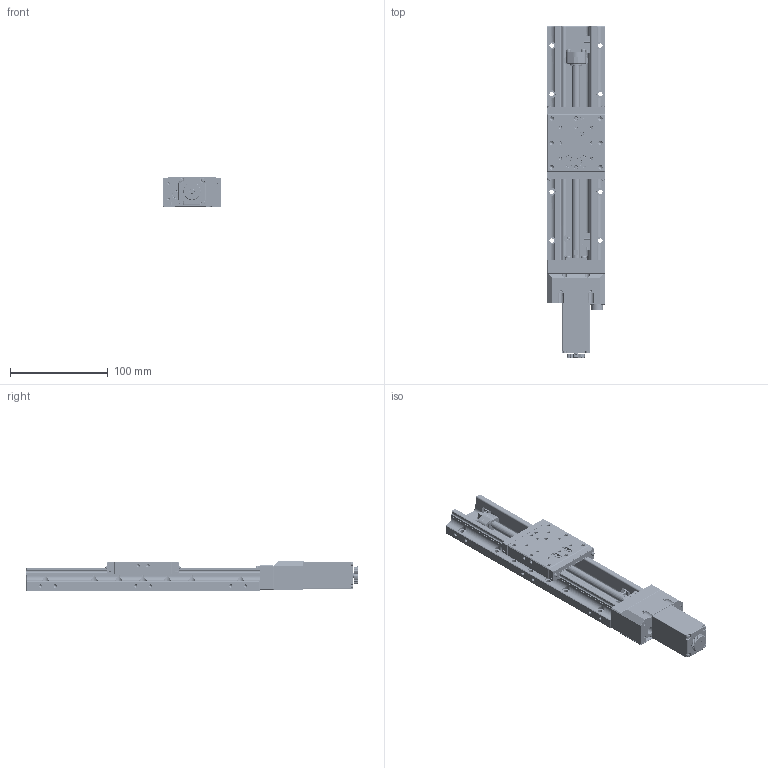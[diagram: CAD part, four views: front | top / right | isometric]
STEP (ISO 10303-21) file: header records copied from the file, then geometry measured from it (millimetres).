
FILE_DESCRIPTION (( 'STEP AP214' ), '1' );
FILE_NAME ('TXG60150B-L2-M28.STEP', '2025-01-03T08:50:26', ( '' ), ( '' ), 'SwSTEP 2.0', 'SolidWorks 2020', '' );
FILE_SCHEMA (( 'AUTOMOTIVE_DESIGN' ));
Length unit declared in the file: millimetre
Products named in the file (1): TXG60150B-L2-M28
Bounding box: 60 x 340.5 x 30.5 mm (x, y, z)
Volume: 309849.7 mm3; surface area: 147078.4 mm2
Topology: 206 solids, 222 shells, 4486 faces, 11337 edges, 7109 vertices
Faces by surface type: plane 1893, cylinder 1248, cone 724, torus 268, sphere 262, bspline 91
Entity records: 204752 total; most frequent: CARTESIAN_POINT 48488, DIRECTION 22198, ORIENTED_EDGE 21204, EDGE_CURVE 10602, AXIS2_PLACEMENT_3D 8269, VERTEX_POINT 6766, VECTOR 5660, LINE 5660
